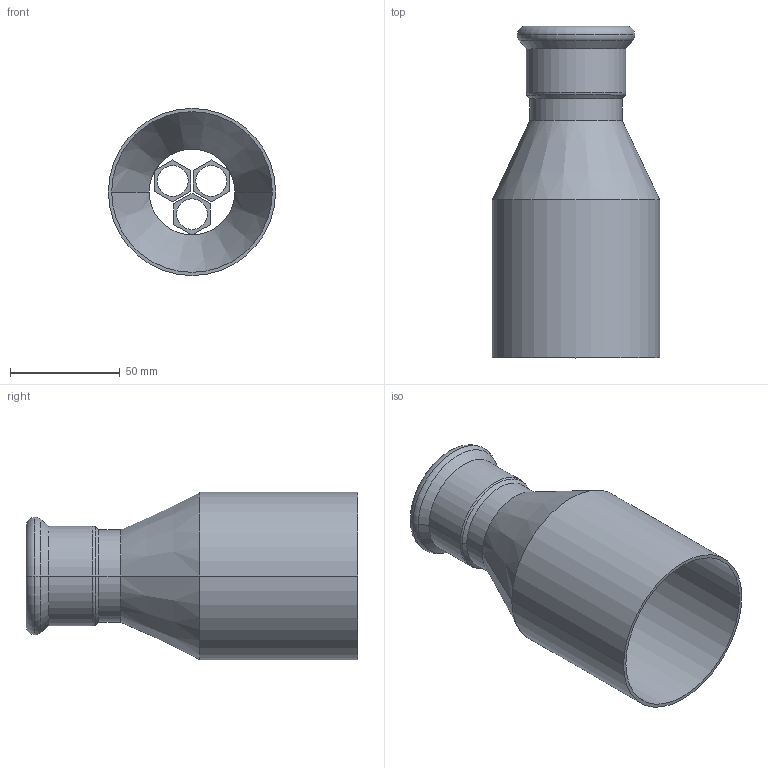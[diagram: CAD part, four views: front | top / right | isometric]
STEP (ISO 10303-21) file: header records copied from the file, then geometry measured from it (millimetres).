
FILE_DESCRIPTION(('OneSpaceDesigner STEP Export'),'2;1');
FILE_NAME('R2707 42x76.stp','2010-06-09T13:48:03',(''),(''),'OneSpace Designer STEP processor for AP214 (Solid Model)','OneSpace Modeling 15.00A 14-Mar-2007 (C) CoCreate Software GmbH','');
FILE_SCHEMA(('AUTOMOTIVE_DESIGN { 1 0 10303 214 1 1 1 1 }'));
Length unit declared in the file: millimetre
Products named in the file (2): R2707_42x76
Assembly tree (1 placements, depth 2):
  R2707_42x76
    R2707_42x76
Bounding box: 76.1 x 151 x 76.1 mm (x, y, z)
Volume: 47487.4 mm3; surface area: 62806.6 mm2
Topology: 1 solids, 1 shells, 68 faces, 164 edges, 103 vertices
Faces by surface type: plane 31, cylinder 23, cone 8, torus 6
Entity records: 1764 total; most frequent: ORIENTED_EDGE 328, CARTESIAN_POINT 281, DIRECTION 259, EDGE_CURVE 164, VERTEX_POINT 103, VECTOR 97, LINE 97, AXIS2_PLACEMENT_3D 81
